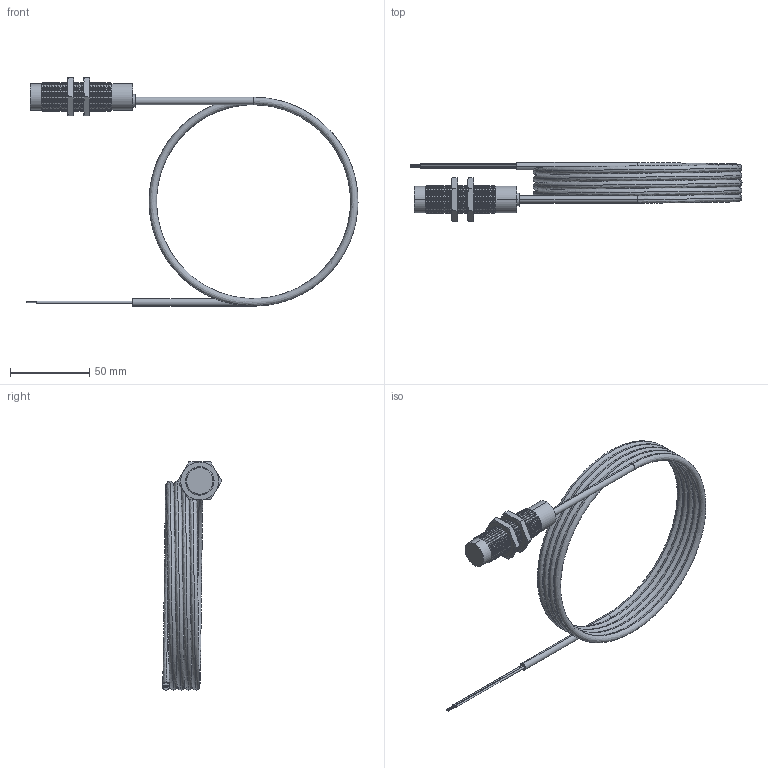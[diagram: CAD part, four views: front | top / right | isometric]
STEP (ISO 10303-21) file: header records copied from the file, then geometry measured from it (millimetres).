
FILE_DESCRIPTION (( 'STEP AP203' ), '1' );
FILE_NAME ('90-XXXX-021.STEP', '2015-10-28T13:16:39', ( 'Sam' ), ( 'Spade' ), 'SwSTEP 2.0', 'SolidWorks 2002296', '' );
FILE_SCHEMA (( 'CONFIG_CONTROL_DESIGN' ));
Length unit declared in the file: inch
Products named in the file (13): 90-XXXX-021; Imported203; Imported202; Imported201; Imported200; Imported199; Imported208; Imported210; Imported209; Imported205; Imported207; Imported206; Imported204
Assembly tree (12 placements, depth 2):
  90-XXXX-021
    Imported202
    Imported203
    Imported200
    Imported209
    Imported204
    Imported208
    Imported205
    Imported210
    Imported199
    Imported206
    Imported207
    Imported201
Bounding box: 209.36 x 37.45 x 143.87 mm (x, y, z)
Volume: 52634.4 mm3; surface area: 38643.6 mm2
Topology: 12 solids, 12 shells, 491 faces, 980 edges, 520 vertices
Faces by surface type: cone 239, cylinder 198, plane 44, bspline 10
Entity records: 15512 total; most frequent: CARTESIAN_POINT 3882, DIRECTION 2395, ORIENTED_EDGE 1960, AXIS2_PLACEMENT_3D 985, EDGE_CURVE 980, VERTEX_POINT 520, EDGE_LOOP 502, ADVANCED_FACE 491
